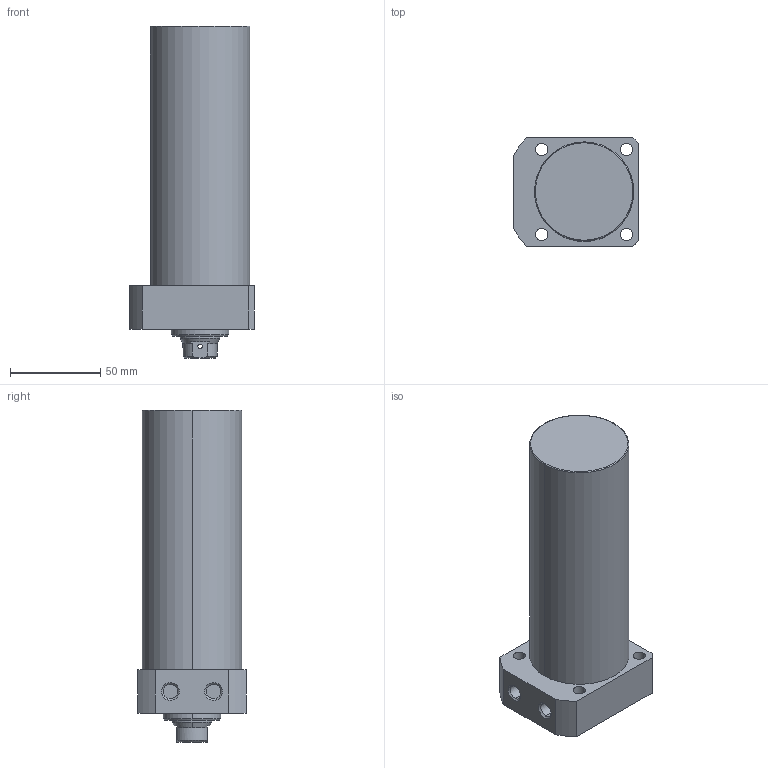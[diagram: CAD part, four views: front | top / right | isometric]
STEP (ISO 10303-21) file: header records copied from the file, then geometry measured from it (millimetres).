
FILE_DESCRIPTION (( 'STEP AP203' ), '1' );
FILE_NAME ('CLLR-055CB-115.STEP', '2019-12-17T11:55:57', ( '' ), ( '' ), 'SwSTEP 2.0', 'SolidWorks 2015', '' );
FILE_SCHEMA (( 'CONFIG_CONTROL_DESIGN' ));
Length unit declared in the file: millimetre
Products named in the file (1): CLLR-055CB-115
Bounding box: 69 x 60 x 184 mm (x, y, z)
Volume: 439704.7 mm3; surface area: 43216.9 mm2
Topology: 1 solids, 1 shells, 69 faces, 162 edges, 101 vertices
Faces by surface type: cylinder 33, plane 19, cone 15, torus 2
Entity records: 2175 total; most frequent: CARTESIAN_POINT 451, DIRECTION 368, ORIENTED_EDGE 320, EDGE_CURVE 160, AXIS2_PLACEMENT_3D 150, VERTEX_POINT 101, EDGE_LOOP 89, CIRCLE 80
